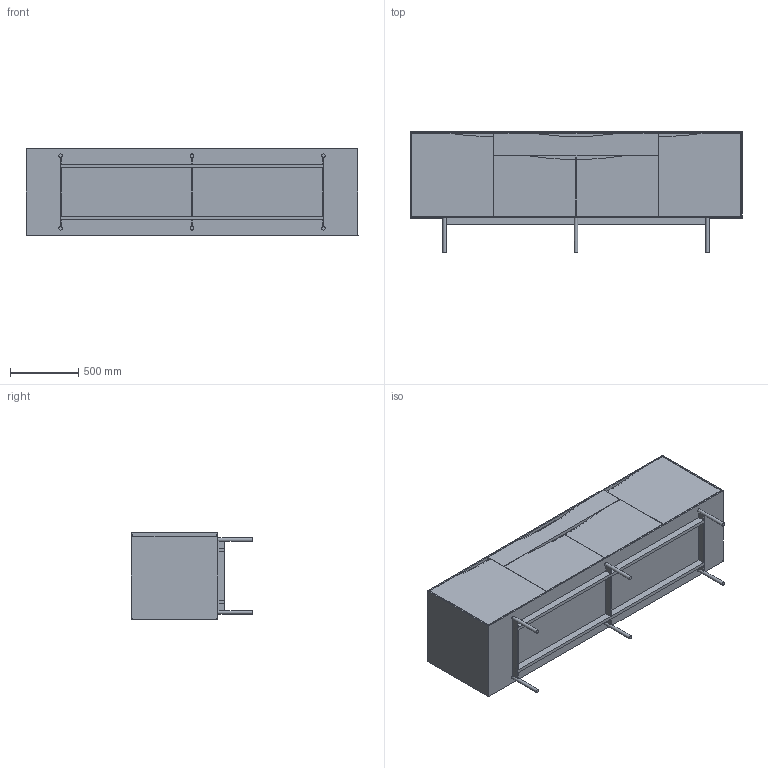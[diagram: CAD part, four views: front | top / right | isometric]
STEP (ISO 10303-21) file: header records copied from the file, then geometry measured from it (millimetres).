
FILE_DESCRIPTION(/* description */ ('','CAx-IF Rec.Pracs.---Representation and Presentation of Product Manufacturing Information (PMI)---4.0---2014-10-13'),/* implementation_level */ '2;1');
FILE_NAME(/* name */ 'CREDENZA STORAGE_PARAGON 2.stp',/* time_stamp */ '2024-12-07T18:31:24-05:00',/* author */ ('mbowman'),/* organization */ (''),/* preprocessor_version */ 'ST-DEVELOPER v19.2',/* originating_system */ 'Autodesk Inventor 2023',/* authorisation */ '');
FILE_SCHEMA (('AP242_MANAGED_MODEL_BASED_3D_ENGINEERING_MIM_LF { 1 0 10303 442 1 1 4 }'));
Length unit declared in the file: inch
Products named in the file (2): PARAGON^CREDENZA 2_35x96 4 DOORS 1 DRAWER-PARTS SOLID; PARAGON^CREDENZA 2_35x96 4 DOORS 1 DRAWER-PARTS SOLID_1
Assembly tree (1 placements, depth 2):
  PARAGON^CREDENZA 2_35x96 4 DOORS 1 DRAWER-PARTS SOLID
    PARAGON^CREDENZA 2_35x96 4 DOORS 1 DRAWER-PARTS SOLID_1
Bounding box: 2438.4 x 889 x 635 mm (x, y, z)
Volume: 185341280.8 mm3; surface area: 17043223.6 mm2
Topology: 18 solids, 18 shells, 183 faces, 441 edges, 294 vertices
Faces by surface type: plane 162, cylinder 16, torus 3, bspline 2
Full cylindrical faces by diameter (mm): 25.4 x6
Entity records: 6624 total; most frequent: CARTESIAN_POINT 1523, DIRECTION 914, ORIENTED_EDGE 882, EDGE_CURVE 441, LINE 382, VECTOR 382, VERTEX_POINT 294, STYLED_ITEM 291
